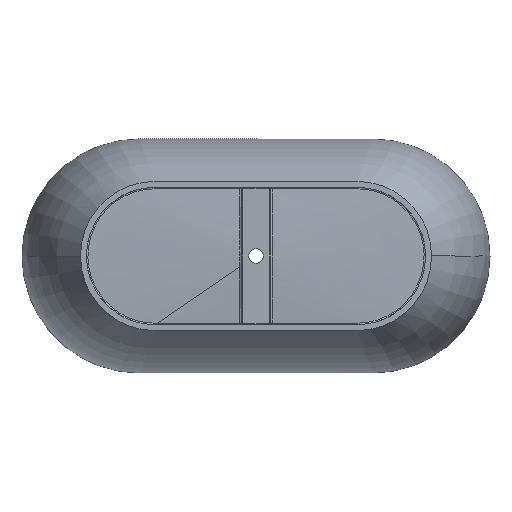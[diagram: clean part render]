
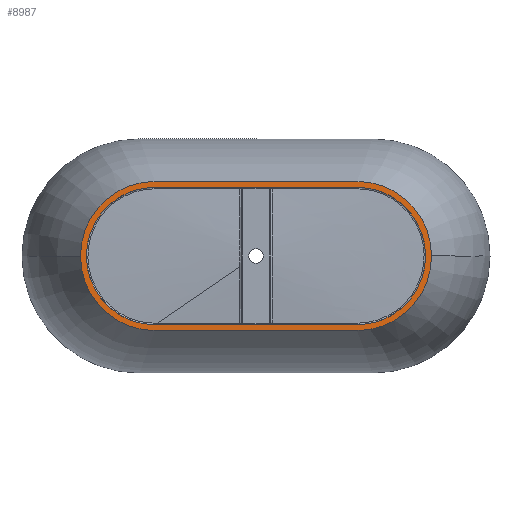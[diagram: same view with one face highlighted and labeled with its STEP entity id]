
A CAD part, front view. The second image highlights one B-rep face of the part: STEP entity #8987.
In plain terms, the highlighted planar face has unit normal (0, -1, 0).
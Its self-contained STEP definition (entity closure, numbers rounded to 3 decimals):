
#393 = CARTESIAN_POINT ( 'NONE',  ( 350.179, -553.376, -238.538 ) ) ;
#481 = ORIENTED_EDGE ( 'NONE', *, *, #9113, .T. ) ;
#716 = DIRECTION ( 'NONE',  ( 0., 0., -1. ) ) ;
#754 = DIRECTION ( 'NONE',  ( 0., -1., 0. ) ) ;
#799 = VERTEX_POINT ( 'NONE', #1421 ) ;
#1023 = EDGE_LOOP ( 'NONE', ( #1056, #4373, #8661, #6215 ) ) ;
#1056 = ORIENTED_EDGE ( 'NONE', *, *, #8621, .F. ) ;
#1184 = CARTESIAN_POINT ( 'NONE',  ( -350.171, -553.376, -0.013 ) ) ;
#1201 = VECTOR ( 'NONE', #7601, 1000. ) ;
#1364 = AXIS2_PLACEMENT_3D ( 'NONE', #11267, #6043, #716 ) ;
#1421 = CARTESIAN_POINT ( 'NONE',  ( -350.171, -553.376, -238.538 ) ) ;
#1428 = AXIS2_PLACEMENT_3D ( 'NONE', #6083, #754, #6975 ) ;
#1478 = LINE ( 'NONE', #7558, #1201 ) ;
#1625 = CARTESIAN_POINT ( 'NONE',  ( -350.171, -553.376, -238.538 ) ) ;
#1880 = EDGE_LOOP ( 'NONE', ( #481, #7133, #7563, #2775 ) ) ;
#1924 = DIRECTION ( 'NONE',  ( 0., -1., 0. ) ) ;
#2033 = VECTOR ( 'NONE', #4311, 1000. ) ;
#2093 = DIRECTION ( 'NONE',  ( 0., 0., -1. ) ) ;
#2160 = EDGE_CURVE ( 'NONE', #8380, #7884, #1478, .T. ) ;
#2428 = CARTESIAN_POINT ( 'NONE',  ( 350.179, -553.376, 238.512 ) ) ;
#2740 = CARTESIAN_POINT ( 'NONE',  ( 350.179, -553.376, -258.838 ) ) ;
#2775 = ORIENTED_EDGE ( 'NONE', *, *, #2160, .T. ) ;
#2975 = EDGE_CURVE ( 'NONE', #7011, #7451, #9233, .T. ) ;
#2998 = DIRECTION ( 'NONE',  ( 0., -1., 0. ) ) ;
#3317 = DIRECTION ( 'NONE',  ( -1., 0., 0. ) ) ;
#3407 = VERTEX_POINT ( 'NONE', #6913 ) ;
#3561 = CIRCLE ( 'NONE', #10216, 238.525 ) ;
#3710 = CARTESIAN_POINT ( 'NONE',  ( 350.179, -553.376, 238.512 ) ) ;
#3715 = CIRCLE ( 'NONE', #1428, 238.525 ) ;
#4000 = VECTOR ( 'NONE', #10882, 1000. ) ;
#4066 = VERTEX_POINT ( 'NONE', #393 ) ;
#4311 = DIRECTION ( 'NONE',  ( 1., 0., 0. ) ) ;
#4373 = ORIENTED_EDGE ( 'NONE', *, *, #5894, .F. ) ;
#4947 = FACE_BOUND ( 'NONE', #1023, .T. ) ;
#5214 = CARTESIAN_POINT ( 'NONE',  ( -350.171, -553.376, -258.838 ) ) ;
#5497 = VECTOR ( 'NONE', #3317, 1000. ) ;
#5894 = EDGE_CURVE ( 'NONE', #4066, #6184, #3715, .T. ) ;
#6043 = DIRECTION ( 'NONE',  ( 0., -1., 0. ) ) ;
#6083 = CARTESIAN_POINT ( 'NONE',  ( 350.179, -553.376, -0.013 ) ) ;
#6184 = VERTEX_POINT ( 'NONE', #3710 ) ;
#6215 = ORIENTED_EDGE ( 'NONE', *, *, #9854, .F. ) ;
#6564 = AXIS2_PLACEMENT_3D ( 'NONE', #7228, #1924, #8119 ) ;
#6737 = LINE ( 'NONE', #1625, #2033 ) ;
#6913 = CARTESIAN_POINT ( 'NONE',  ( -350.171, -553.376, 238.512 ) ) ;
#6975 = DIRECTION ( 'NONE',  ( 0., 0., -1. ) ) ;
#7011 = VERTEX_POINT ( 'NONE', #5214 ) ;
#7133 = ORIENTED_EDGE ( 'NONE', *, *, #2975, .T. ) ;
#7228 = CARTESIAN_POINT ( 'NONE',  ( 350.179, -553.376, -0.013 ) ) ;
#7298 = FACE_OUTER_BOUND ( 'NONE', #1880, .T. ) ;
#7380 = CARTESIAN_POINT ( 'NONE',  ( -350.171, -553.376, -0.013 ) ) ;
#7398 = DIRECTION ( 'NONE',  ( 0., -1., 0. ) ) ;
#7413 = PLANE ( 'NONE',  #10431 ) ;
#7437 = CIRCLE ( 'NONE', #6564, 258.825 ) ;
#7451 = VERTEX_POINT ( 'NONE', #2740 ) ;
#7558 = CARTESIAN_POINT ( 'NONE',  ( 350.179, -553.376, 258.812 ) ) ;
#7563 = ORIENTED_EDGE ( 'NONE', *, *, #7731, .T. ) ;
#7601 = DIRECTION ( 'NONE',  ( -1., 0., 0. ) ) ;
#7731 = EDGE_CURVE ( 'NONE', #7451, #8380, #7437, .T. ) ;
#7884 = VERTEX_POINT ( 'NONE', #8047 ) ;
#8047 = CARTESIAN_POINT ( 'NONE',  ( -350.171, -553.376, 258.812 ) ) ;
#8119 = DIRECTION ( 'NONE',  ( 0., 0., -1. ) ) ;
#8140 = LINE ( 'NONE', #2428, #5497 ) ;
#8380 = VERTEX_POINT ( 'NONE', #11162 ) ;
#8621 = EDGE_CURVE ( 'NONE', #6184, #3407, #8140, .T. ) ;
#8661 = ORIENTED_EDGE ( 'NONE', *, *, #9278, .F. ) ;
#8987 = ADVANCED_FACE ( 'NONE', ( #7298, #4947 ), #7413, .T. ) ;
#9113 = EDGE_CURVE ( 'NONE', #7884, #7011, #11366, .T. ) ;
#9170 = DIRECTION ( 'NONE',  ( 0., 0., -1. ) ) ;
#9233 = LINE ( 'NONE', #11140, #4000 ) ;
#9278 = EDGE_CURVE ( 'NONE', #799, #4066, #6737, .T. ) ;
#9854 = EDGE_CURVE ( 'NONE', #3407, #799, #3561, .T. ) ;
#10216 = AXIS2_PLACEMENT_3D ( 'NONE', #1184, #7398, #2093 ) ;
#10431 = AXIS2_PLACEMENT_3D ( 'NONE', #7380, #2998, #9170 ) ;
#10882 = DIRECTION ( 'NONE',  ( 1., 0., 0. ) ) ;
#11140 = CARTESIAN_POINT ( 'NONE',  ( -350.171, -553.376, -258.838 ) ) ;
#11162 = CARTESIAN_POINT ( 'NONE',  ( 350.179, -553.376, 258.812 ) ) ;
#11267 = CARTESIAN_POINT ( 'NONE',  ( -350.171, -553.376, -0.013 ) ) ;
#11366 = CIRCLE ( 'NONE', #1364, 258.825 ) ;
